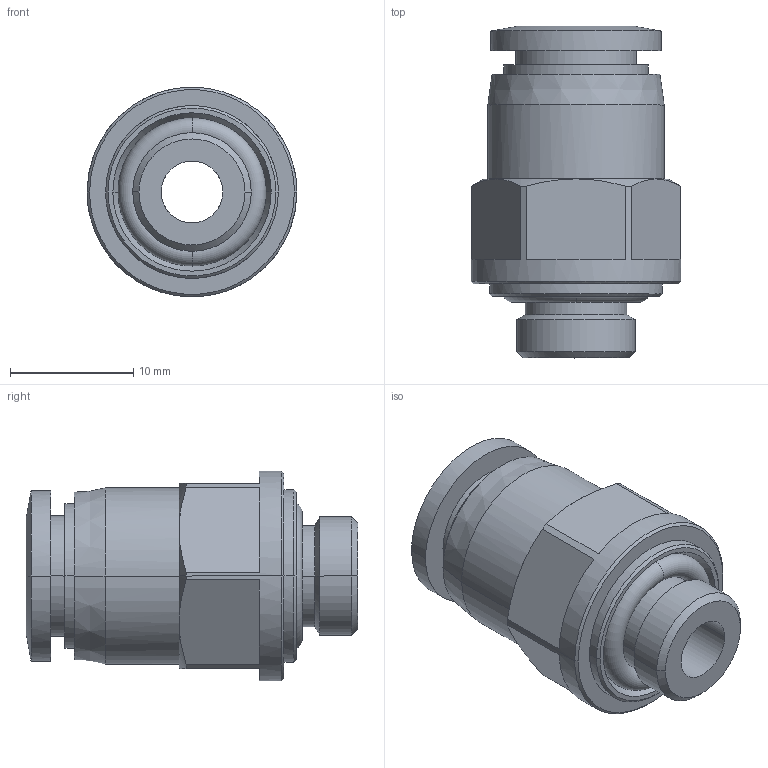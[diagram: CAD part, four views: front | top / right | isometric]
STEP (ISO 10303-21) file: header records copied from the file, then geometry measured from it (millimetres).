
FILE_DESCRIPTION (( 'STEP AP203' ), '1' );
FILE_NAME ('FH08-01.STEP', '2020-04-28T13:38:31', ( '' ), ( '' ), 'SwSTEP 2.0', 'SolidWorks 2019', '' );
FILE_SCHEMA (( 'CONFIG_CONTROL_DESIGN' ));
Length unit declared in the file: millimetre
Products named in the file (1): FH08-01
Bounding box: 17 x 26.9 x 17 mm (x, y, z)
Surface area: 2557.3 mm2 (no closed solid volume)
Topology: 0 solids, 4 shells, 72 faces, 166 edges, 105 vertices
Faces by surface type: plane 23, cylinder 22, cone 21, torus 6
Entity records: 3365 total; most frequent: CARTESIAN_POINT 1907, ORIENTED_EDGE 316, DIRECTION 195, EDGE_CURVE 166, B_SPLINE_CURVE_WITH_KNOTS 123, VERTEX_POINT 105, EDGE_LOOP 83, AXIS2_PLACEMENT_3D 79
